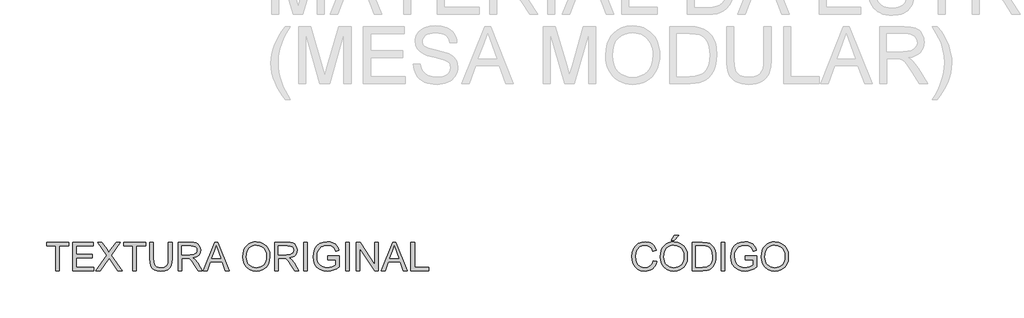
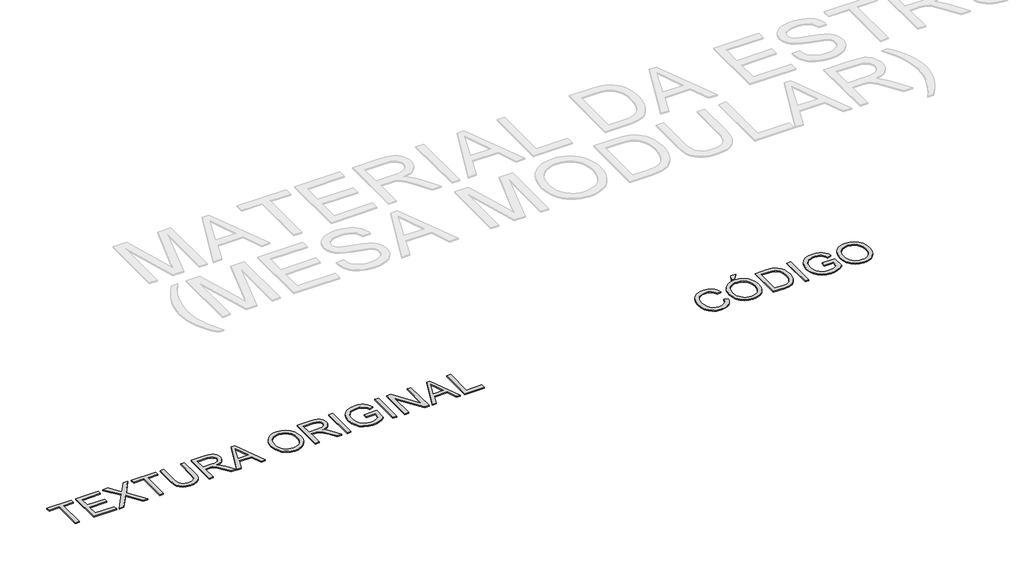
# One storey, part 47 of 67: 2 proxies.
"""IFC4 building model written with IfcOpenShell, lengths in millimetres."""

from ifc_helpers import new_model, si_unit, origin, origin_with_axes, place, context, project, spatial, polyline, outline, extrude, element, save

model = new_model("IFC4")

# Units and contexts
model_context = context("Model", 3, world=origin())
ifc_project = project(units=[si_unit("LENGTHUNIT", "METRE", prefix="MILLI")], contexts=[model_context])

# Site, building, storey
site = spatial("IfcSite", under=ifc_project)
building = spatial("IfcBuilding", under=site)
storey = spatial("IfcBuildingStorey", under=building, Name="Marelli - Linha COLAB - Planta Baixa", Elevation=0.0)

# Proxies
placement = place(None, origin())
element("IfcBuildingElementProxy", 1, Name="300mm Arial", ObjectType="300mm Arial", at=placement, inside=storey, context=model_context, shape_type="SweptSolid", body=[
    extrude(outline(polyline([(25299.1753537, -53673.4390831), (25336.84647, -53683.1511677), (25329.3922611, -53706.5783531), (25319.4640457, -53727.0486868), (25307.061824, -53744.5621691), (25292.1855958, -53759.1187997), (25275.1710535, -53770.5622291), (25256.3538895, -53778.7361071), (25235.7341036, -53783.640434), (25213.311696, -53785.2752096), (25169.616512, -53780.3271968), (25134.9160429, -53765.4831583), (25108.3181746, -53741.2581289), (25088.9307935, -53708.1671434), (25077.0941903, -53669.2636224), (25073.1486559, -53627.6009865), (25077.6092251, -53583.6574822), (25090.9909326, -53545.7104543), (25112.5948028, -53514.9647166), (25141.7218598, -53492.6250824), (25176.2659791, -53479.0226457), (25214.1210364, -53474.4885001), (25255.4249874, -53480.3562179), (25273.3937236, -53487.6908652), (25289.5736336, -53497.9593714), (25303.698003, -53510.8904235), (25315.5001172, -53526.2127086), (25332.1375805, -53564.0309777), (25294.4664642, -53573.0072984), (25281.4066533, -53545.5357104), (25263.5643766, -53526.6909552), (25240.7189047, -53515.7924511), (25212.6495084, -53512.1596164), (25180.294287, -53516.1879242), (25153.7148128, -53528.2728478), (25133.5456824, -53547.1451941), (25120.4214922, -53571.5357704), (25113.2202022, -53599.1085259), (25110.8197722, -53627.5274101), (25113.6616606, -53662.3290468), (25122.1873258, -53692.421794), (25136.7186646, -53716.6560205), (25157.5775738, -53733.8820949), (25182.5843524, -53744.1735937), (25209.5592997, -53747.6040933), (25241.0040132, -53742.931992), (25267.2064083, -53728.9156879), (25286.9892626, -53705.702334), (25299.1753537, -53673.4390831)])), origin_with_axes(), (0.0, 0.0, 1.0), 10.0),
    extrude(outline(polyline([(25374.5175863, -53633.8549804), (25377.0283809, -53598.5061192), (25384.5607648, -53567.213157), (25397.1147379, -53539.9760937), (25414.6903002, -53516.7949295), (25436.2343895, -53498.2858666), (25460.6939437, -53485.0651074), (25488.0689626, -53477.1326519), (25518.3594464, -53474.4885001), (25557.8883668, -53479.454907), (25593.333797, -53494.3541278), (25622.7643567, -53518.1376988), (25644.2486652, -53549.7571563), (25657.3820524, -53587.68579), (25661.7598481, -53630.3968896), (25657.1521262, -53673.6782064), (25643.3289602, -53712.140269), (25621.0537054, -53743.8149088), (25591.0897169, -53766.733957), (25555.9477893, -53780.6398965), (25518.1387172, -53785.2752096), (25478.0027916, -53780.1524528), (25442.3550262, -53764.7841825), (25412.998043, -53740.5591531), (25391.7344637, -53708.8661192), (25378.8218057, -53672.3998164), (25374.5175863, -53633.8549804)]), holes=[polyline([(25412.1887026, -53634.2228624), (25414.0717986, -53659.1974513), (25419.7210865, -53681.3669401), (25429.1365663, -53700.7313286), (25442.318238, -53717.2906169), (25458.3417982, -53730.5527628), (25476.2829432, -53740.0257242), (25496.1416732, -53745.709501), (25517.917988, -53747.6040933), (25540.0667834, -53745.6911069), (25560.1600381, -53739.9521478), (25578.1977522, -53730.3872159), (25594.1799256, -53716.9963113), (25607.2650283, -53700.0875351), (25616.6115303, -53679.9689885), (25622.2194315, -53656.6406715), (25624.0887318, -53630.102584), (25620.8881585, -53596.7540812), (25611.2864384, -53567.9305269), (25595.531892, -53544.358488), (25573.8728395, -53526.7645316), (25547.7440208, -53515.8108452), (25518.5801756, -53512.1596164), (25497.5603181, -53513.9185522), (25478.0579739, -53519.1953595), (25460.0731428, -53527.9900385), (25443.605825, -53540.302589), (25429.860834, -53556.7262208), (25420.0429832, -53577.8541437), (25414.1522728, -53603.6863575), (25412.1887026, -53634.2228624)])]), origin_with_axes(), (0.0, 0.0, 1.0), 10.0),
    extrude(outline(polyline([(25492.2398248, -53460.3618315), (25520.493162, -53403.855157), (25567.5820574, -53403.855157), (25520.493162, -53460.3618315), (25492.2398248, -53460.3618315)])), origin_with_axes(), (0.0, 0.0, 1.0), 10.0),
    extrude(outline(polyline([(25713.5576331, -53780.5663201), (25713.5576331, -53479.1973896), (25817.5210849, -53479.1973896), (25871.3054326, -53483.5383972), (25895.3281269, -53491.9077126), (25915.5984248, -53505.0962821), (25936.4389398, -53528.0521186), (25951.2829783, -53556.5997614), (25960.1673285, -53590.1873876), (25963.1287786, -53628.2631741), (25961.1238217, -53660.6091985), (25955.1089511, -53689.0740679), (25945.9486894, -53713.3082943), (25934.5075594, -53732.9623899), (25921.3373839, -53748.477813), (25906.9899861, -53760.2960221), (25890.5180698, -53769.0608107), (25870.9743388, -53775.4159721), (25822.52428, -53780.5663201), (25713.5576331, -53780.5663201)]), holes=[polyline([(25751.2287494, -53742.8952038), (25817.8889669, -53742.8952038), (25845.4617224, -53741.5340404), (25866.3758139, -53737.4505502), (25882.1579515, -53730.8838566), (25894.3348455, -53722.0730828), (25907.4222475, -53705.7667134), (25917.2538938, -53684.6594839), (25923.4067202, -53658.6594239), (25925.4576623, -53627.6745629), (25921.4385515, -53586.6189322), (25909.3812191, -53556.3054558), (25891.5665335, -53535.4833349), (25870.275363, -53522.9017706), (25848.6071135, -53518.3768221), (25816.8588973, -53516.8685059), (25751.2287494, -53516.8685059), (25751.2287494, -53742.8952038)])]), origin_with_axes(), (0.0, 0.0, 1.0), 10.0),
    extrude(outline(polyline([(26019.6354531, -53780.5663201), (26019.6354531, -53479.1973896), (26057.3065694, -53479.1973896), (26057.3065694, -53780.5663201), (26019.6354531, -53780.5663201)])), origin_with_axes(), (0.0, 0.0, 1.0), 10.0),
    extrude(outline(polyline([(26273.9154881, -53662.8440816), (26273.9154881, -53625.1729653), (26396.3466161, -53625.1729653), (26396.3466161, -53737.8184322), (26366.5941598, -53758.5117945), (26335.9036043, -53773.355833), (26304.3485262, -53782.2953654), (26272.0025017, -53785.2752096), (26229.7420575, -53780.5387289), (26191.5467094, -53766.3292869), (26159.8168873, -53743.1435241), (26136.9530213, -53711.4780814), (26123.1298553, -53673.4942654), (26118.5221334, -53631.3533828), (26123.1114612, -53588.9089976), (26136.8794449, -53549.4260625), (26159.2558673, -53516.3074859), (26189.6705112, -53492.9561762), (26226.7162281, -53479.1054191), (26268.9858694, -53474.4885001), (26300.0167157, -53477.1648416), (26327.920565, -53485.1938661), (26351.4190275, -53497.9961596), (26369.2337131, -53514.9923078), (26382.4130855, -53537.0008481), (26392.0056086, -53564.8403181), (26357.2775482, -53574.6259792), (26349.5244352, -53554.7695485), (26340.0974591, -53539.7875542), (26327.6262594, -53528.493577), (26310.7404758, -53519.7011973), (26290.6081337, -53514.0450116), (26268.3972582, -53512.1596164), (26242.3971982, -53514.1921644), (26220.1679286, -53520.2898085), (26201.792223, -53529.6891935), (26187.3528547, -53541.6269642), (26167.9654735, -53570.6528536), (26159.1363056, -53599.0901318), (26156.1932497, -53629.8082784), (26159.7341139, -53665.8331228), (26170.3567065, -53695.4752146), (26187.7391307, -53718.5230216), (26211.5594899, -53734.7650117), (26239.4357481, -53744.3943229), (26268.9858694, -53747.6040933), (26295.0778999, -53745.1852692), (26320.5261369, -53737.9287968), (26342.6266478, -53727.9316036), (26358.6754998, -53717.2906169), (26358.6754998, -53662.8440816), (26273.9154881, -53662.8440816)])), origin_with_axes(), (0.0, 0.0, 1.0), 10.0),
    extrude(outline(polyline([(26443.4355115, -53633.8549804), (26445.9463061, -53598.5061192), (26453.47869, -53567.213157), (26466.0326631, -53539.9760937), (26483.6082254, -53516.7949295), (26505.1523147, -53498.2858666), (26529.6118689, -53485.0651074), (26556.9868878, -53477.1326519), (26587.2773716, -53474.4885001), (26626.806292, -53479.454907), (26662.2517222, -53494.3541278), (26691.6822818, -53518.1376988), (26713.1665904, -53549.7571563), (26726.2999776, -53587.68579), (26730.6777733, -53630.3968896), (26726.0700513, -53673.6782064), (26712.2468854, -53712.140269), (26689.9716306, -53743.8149088), (26660.0076421, -53766.733957), (26624.8657145, -53780.6398965), (26587.0566424, -53785.2752096), (26546.9207167, -53780.1524528), (26511.2729514, -53764.7841825), (26481.9159682, -53740.5591531), (26460.6523889, -53708.8661192), (26447.7397308, -53672.3998164), (26443.4355115, -53633.8549804)]), holes=[polyline([(26481.1066278, -53634.2228624), (26482.9897238, -53659.1974513), (26488.6390117, -53681.3669401), (26498.0544915, -53700.7313286), (26511.2361632, -53717.2906169), (26527.2597234, -53730.5527628), (26545.2008684, -53740.0257242), (26565.0595984, -53745.709501), (26586.8359132, -53747.6040933), (26608.9847086, -53745.6911069), (26629.0779633, -53739.9521478), (26647.1156774, -53730.3872159), (26663.0978508, -53716.9963113), (26676.1829535, -53700.0875351), (26685.5294555, -53679.9689885), (26691.1373566, -53656.6406715), (26693.006657, -53630.102584), (26689.8060837, -53596.7540812), (26680.2043636, -53567.9305269), (26664.4498171, -53544.358488), (26642.7907647, -53526.7645316), (26616.661946, -53515.8108452), (26587.4981008, -53512.1596164), (26566.4782433, -53513.9185522), (26546.975899, -53519.1953595), (26528.991068, -53527.9900385), (26512.5237502, -53540.302589), (26498.7787591, -53556.7262208), (26488.9609084, -53577.8541437), (26483.070198, -53603.6863575), (26481.1066278, -53634.2228624)])]), origin_with_axes(), (0.0, 0.0, 1.0), 10.0),
])
element("IfcBuildingElementProxy", 2, Name="300mm Arial", ObjectType="300mm Arial", at=placement, inside=storey, context=model_context, shape_type="SweptSolid", body=[
    extrude(outline(polyline([(18978.3318382, -53780.5663201), (18978.3318382, -53516.8685059), (18879.4451579, -53516.8685059), (18879.4451579, -53479.1973896), (19114.8896348, -53479.1973896), (19114.8896348, -53516.8685059), (19016.0029545, -53516.8685059), (19016.0029545, -53780.5663201), (18978.3318382, -53780.5663201)])), origin_with_axes(), (0.0, 0.0, 1.0), 10.0),
    extrude(outline(polyline([(19157.2696407, -53780.5663201), (19157.2696407, -53479.1973896), (19373.8785594, -53479.1973896), (19373.8785594, -53516.8685059), (19194.940757, -53516.8685059), (19194.940757, -53606.3374072), (19364.4607804, -53606.3374072), (19364.4607804, -53644.0085235), (19194.940757, -53644.0085235), (19194.940757, -53742.8952038), (19378.587449, -53742.8952038), (19378.587449, -53780.5663201), (19157.2696407, -53780.5663201)])), origin_with_axes(), (0.0, 0.0, 1.0), 10.0),
    extrude(outline(polyline([(19402.1318967, -53780.5663201), (19518.3090307, -53616.3437974), (19420.9674548, -53479.1973896), (19466.1433638, -53479.1973896), (19520.9577811, -53556.3790322), (19539.4254573, -53586.4717794), (19561.0569186, -53555.8639974), (19615.2827247, -53479.1973896), (19661.1208213, -53479.1973896), (19563.7792453, -53616.7852558), (19679.9563794, -53780.5663201), (19634.7804704, -53780.5663201), (19557.3780986, -53671.3789439), (19541.2648672, -53648.717413), (19523.5329551, -53673.5862359), (19447.9699933, -53780.5663201), (19402.1318967, -53780.5663201)])), origin_with_axes(), (0.0, 0.0, 1.0), 10.0),
    extrude(outline(polyline([(19792.9697283, -53780.5663201), (19792.9697283, -53516.8685059), (19694.083048, -53516.8685059), (19694.083048, -53479.1973896), (19929.5275249, -53479.1973896), (19929.5275249, -53516.8685059), (19830.6408446, -53516.8685059), (19830.6408446, -53780.5663201), (19792.9697283, -53780.5663201)])), origin_with_axes(), (0.0, 0.0, 1.0), 10.0),
    extrude(outline(polyline([(20169.6808914, -53479.1973896), (20207.3520077, -53479.1973896), (20207.3520077, -53653.0584205), (20204.7952278, -53693.7737604), (20197.1248882, -53725.1265034), (20182.7958845, -53749.3147446), (20160.2631123, -53768.5365788), (20129.4713893, -53781.0905519), (20090.3655332, -53785.2752096), (20052.1150028, -53781.6331779), (20021.5348119, -53770.7070826), (19998.6157636, -53752.8740029), (19983.3486608, -53728.5110178), (19974.7678133, -53695.8338995), (19971.9075308, -53653.0584205), (19971.9075308, -53479.1973896), (20009.5786471, -53479.1973896), (20009.5786471, -53651.7340454), (20011.4364512, -53685.588386), (20017.0098634, -53709.1604248), (20027.1082242, -53725.4851883), (20042.5408739, -53737.597703), (20062.664019, -53745.1024957), (20086.8338661, -53747.6040933), (20125.1487759, -53742.6560805), (20139.4915752, -53736.4710644), (20150.624604, -53727.812042), (20158.9617298, -53715.6351479), (20164.9168196, -53698.8965171), (20169.6808914, -53651.7340454), (20169.6808914, -53479.1973896)])), origin_with_axes(), (0.0, 0.0, 1.0), 10.0),
    extrude(outline(polyline([(20273.2764612, -53780.5663201), (20273.2764612, -53479.1973896), (20403.1388055, -53479.1973896), (20438.0416098, -53481.2299376), (20463.4346645, -53487.3275817), (20481.9943112, -53498.5847708), (20496.3968913, -53516.0959537), (20505.6399264, -53537.8101885), (20508.7209382, -53561.6765329), (20503.6165755, -53591.3646099), (20488.3034874, -53615.9759154), (20476.7037083, -53626.0052983), (20462.3218215, -53634.0205273), (20425.2117252, -53644.0085235), (20446.6224574, -53660.1217548), (20477.156663, -53698.8965171), (20527.4093435, -53780.5663201), (20483.6313861, -53780.5663201), (20444.4151654, -53718.0999573), (20416.0882518, -53676.750021), (20396.1858358, -53657.2154871), (20378.2699827, -53650.0417882), (20356.4177921, -53648.717413), (20310.9475775, -53648.717413), (20310.9475775, -53780.5663201), (20273.2764612, -53780.5663201)]), holes=[polyline([(20310.9475775, -53611.0462967), (20395.2661308, -53611.0462967), (20419.4819632, -53609.7127245), (20438.2715361, -53605.7120078), (20452.4165988, -53598.7774322), (20462.6989006, -53588.6422832), (20468.9620915, -53576.3826157), (20471.0498218, -53563.0744845), (20467.0674992, -53544.6987789), (20455.1205315, -53529.8915286), (20434.565125, -53520.1242616), (20404.7574863, -53516.8685059), (20310.9475775, -53516.8685059), (20310.9475775, -53611.0462967)])]), origin_with_axes(), (0.0, 0.0, 1.0), 10.0),
    extrude(outline(polyline([(20539.5494493, -53780.5663201), (20659.8468618, -53479.1973896), (20691.9261717, -53479.1973896), (20812.2235842, -53780.5663201), (20772.4187523, -53780.5663201), (20737.9114211, -53686.3885293), (20613.788036, -53686.3885293), (20579.3542812, -53780.5663201), (20539.5494493, -53780.5663201)]), holes=[polyline([(20627.620399, -53648.717413), (20724.1526345, -53648.717413), (20697.0029433, -53574.6259792), (20675.8865168, -53516.8685059), (20657.124535, -53568.1512561), (20627.620399, -53648.717413)])]), origin_with_axes(), (0.0, 0.0, 1.0), 10.0),
    extrude(outline(polyline([(20956.0654443, -53633.8549804), (20958.5762389, -53598.5061192), (20966.1086228, -53567.213157), (20978.6625958, -53539.9760937), (20996.2381582, -53516.7949295), (21017.7822475, -53498.2858666), (21042.2418017, -53485.0651074), (21069.6168206, -53477.1326519), (21099.9073044, -53474.4885001), (21139.4362248, -53479.454907), (21174.881655, -53494.3541278), (21204.3122146, -53518.1376988), (21225.7965232, -53549.7571563), (21238.9299104, -53587.68579), (21243.3077061, -53630.3968896), (21238.6999841, -53673.6782064), (21224.8768182, -53712.140269), (21202.6015634, -53743.8149088), (21172.6375748, -53766.733957), (21137.4956473, -53780.6398965), (21099.6865752, -53785.2752096), (21059.5506495, -53780.1524528), (21023.9028842, -53764.7841825), (20994.545901, -53740.5591531), (20973.2823217, -53708.8661192), (20960.3696636, -53672.3998164), (20956.0654443, -53633.8549804)]), holes=[polyline([(20993.7365606, -53634.2228624), (20995.6196566, -53659.1974513), (21001.2689444, -53681.3669401), (21010.6844243, -53700.7313286), (21023.866096, -53717.2906169), (21039.8896562, -53730.5527628), (21057.8308012, -53740.0257242), (21077.6895312, -53745.709501), (21099.465846, -53747.6040933), (21121.6146414, -53745.6911069), (21141.7078961, -53739.9521478), (21159.7456102, -53730.3872159), (21175.7277836, -53716.9963113), (21188.8128863, -53700.0875351), (21198.1593883, -53679.9689885), (21203.7672894, -53656.6406715), (21205.6365898, -53630.102584), (21202.4360165, -53596.7540812), (21192.8342964, -53567.9305269), (21177.0797499, -53544.358488), (21155.4206975, -53526.7645316), (21129.2918788, -53515.8108452), (21100.1280336, -53512.1596164), (21079.1081761, -53513.9185522), (21059.6058318, -53519.1953595), (21041.6210008, -53527.9900385), (21025.153683, -53540.302589), (21011.4086919, -53556.7262208), (21001.5908412, -53577.8541437), (20995.7001307, -53603.6863575), (20993.7365606, -53634.2228624)])]), origin_with_axes(), (0.0, 0.0, 1.0), 10.0),
    extrude(outline(polyline([(21295.105491, -53780.5663201), (21295.105491, -53479.1973896), (21424.9678353, -53479.1973896), (21459.8706396, -53481.2299376), (21485.2636943, -53487.3275817), (21503.823341, -53498.5847708), (21518.2259211, -53516.0959537), (21527.4689562, -53537.8101885), (21530.549968, -53561.6765329), (21525.4456053, -53591.3646099), (21510.1325172, -53615.9759154), (21498.5327381, -53626.0052983), (21484.1508513, -53634.0205273), (21447.040755, -53644.0085235), (21468.4514872, -53660.1217548), (21498.9856928, -53698.8965171), (21549.2383733, -53780.5663201), (21505.4604159, -53780.5663201), (21466.2441952, -53718.0999573), (21437.9172816, -53676.750021), (21418.0148656, -53657.2154871), (21400.0990125, -53650.0417882), (21378.246822, -53648.717413), (21332.7766073, -53648.717413), (21332.7766073, -53780.5663201), (21295.105491, -53780.5663201)]), holes=[polyline([(21332.7766073, -53611.0462967), (21417.0951606, -53611.0462967), (21441.310993, -53609.7127245), (21460.1005659, -53605.7120078), (21474.2456286, -53598.7774322), (21484.5279304, -53588.6422832), (21490.7911213, -53576.3826157), (21492.8788516, -53563.0744845), (21488.8965291, -53544.6987789), (21476.9495613, -53529.8915286), (21456.3941548, -53520.1242616), (21426.5865161, -53516.8685059), (21332.7766073, -53516.8685059), (21332.7766073, -53611.0462967)])]), origin_with_axes(), (0.0, 0.0, 1.0), 10.0),
    extrude(outline(polyline([(21601.183311, -53780.5663201), (21601.183311, -53479.1973896), (21638.8544273, -53479.1973896), (21638.8544273, -53780.5663201), (21601.183311, -53780.5663201)])), origin_with_axes(), (0.0, 0.0, 1.0), 10.0),
    extrude(outline(polyline([(21855.4633461, -53662.8440816), (21855.4633461, -53625.1729653), (21977.8944741, -53625.1729653), (21977.8944741, -53737.8184322), (21948.1420177, -53758.5117945), (21917.4514623, -53773.355833), (21885.8963841, -53782.2953654), (21853.5503597, -53785.2752096), (21811.2899155, -53780.5387289), (21773.0945674, -53766.3292869), (21741.3647453, -53743.1435241), (21718.5008793, -53711.4780814), (21704.6777133, -53673.4942654), (21700.0699913, -53631.3533828), (21704.6593192, -53588.9089976), (21718.4273029, -53549.4260625), (21740.8037252, -53516.3074859), (21771.2183692, -53492.9561762), (21808.2640861, -53479.1054191), (21850.5337274, -53474.4885001), (21881.5645737, -53477.1648416), (21909.468423, -53485.1938661), (21932.9668854, -53497.9961596), (21950.781571, -53514.9923078), (21963.9609435, -53537.0008481), (21973.5534665, -53564.8403181), (21938.8254062, -53574.6259792), (21931.0722932, -53554.7695485), (21921.645317, -53539.7875542), (21909.1741174, -53528.493577), (21892.2883338, -53519.7011973), (21872.1559916, -53514.0450116), (21849.9451162, -53512.1596164), (21823.9450562, -53514.1921644), (21801.7157866, -53520.2898085), (21783.3400809, -53529.6891935), (21768.9007126, -53541.6269642), (21749.5133315, -53570.6528536), (21740.6841636, -53599.0901318), (21737.7411076, -53629.8082784), (21741.2819718, -53665.8331228), (21751.9045645, -53695.4752146), (21769.2869887, -53718.5230216), (21793.1073479, -53734.7650117), (21820.9836061, -53744.3943229), (21850.5337274, -53747.6040933), (21876.6257579, -53745.1852692), (21902.0739949, -53737.9287968), (21924.1745057, -53727.9316036), (21940.2233578, -53717.2906169), (21940.2233578, -53662.8440816), (21855.4633461, -53662.8440816)])), origin_with_axes(), (0.0, 0.0, 1.0), 10.0),
    extrude(outline(polyline([(22043.8189276, -53780.5663201), (22043.8189276, -53479.1973896), (22081.4900439, -53479.1973896), (22081.4900439, -53780.5663201), (22043.8189276, -53780.5663201)])), origin_with_axes(), (0.0, 0.0, 1.0), 10.0),
    extrude(outline(polyline([(22156.8322765, -53780.5663201), (22156.8322765, -53479.1973896), (22197.1521432, -53479.1973896), (22354.6056372, -53717.9528045), (22354.6056372, -53479.1973896), (22392.2767535, -53479.1973896), (22392.2767535, -53780.5663201), (22351.9568868, -53780.5663201), (22194.5033928, -53541.7373288), (22194.5033928, -53780.5663201), (22156.8322765, -53780.5663201)])), origin_with_axes(), (0.0, 0.0, 1.0), 10.0),
    extrude(outline(polyline([(22423.1052647, -53780.5663201), (22543.4026771, -53479.1973896), (22575.4819871, -53479.1973896), (22695.7793995, -53780.5663201), (22655.9745676, -53780.5663201), (22621.4672365, -53686.3885293), (22497.3438513, -53686.3885293), (22462.9100965, -53780.5663201), (22423.1052647, -53780.5663201)]), holes=[polyline([(22511.1762143, -53648.717413), (22607.7084498, -53648.717413), (22580.5587586, -53574.6259792), (22559.4423321, -53516.8685059), (22540.6803503, -53568.1512561), (22511.1762143, -53648.717413)])]), origin_with_axes(), (0.0, 0.0, 1.0), 10.0),
    extrude(outline(polyline([(22736.0256898, -53780.5663201), (22736.0256898, -53479.1973896), (22773.6968061, -53479.1973896), (22773.6968061, -53742.8952038), (22924.3812713, -53742.8952038), (22924.3812713, -53780.5663201), (22736.0256898, -53780.5663201)])), origin_with_axes(), (0.0, 0.0, 1.0), 10.0),
])

save(model, "model.ifc")
